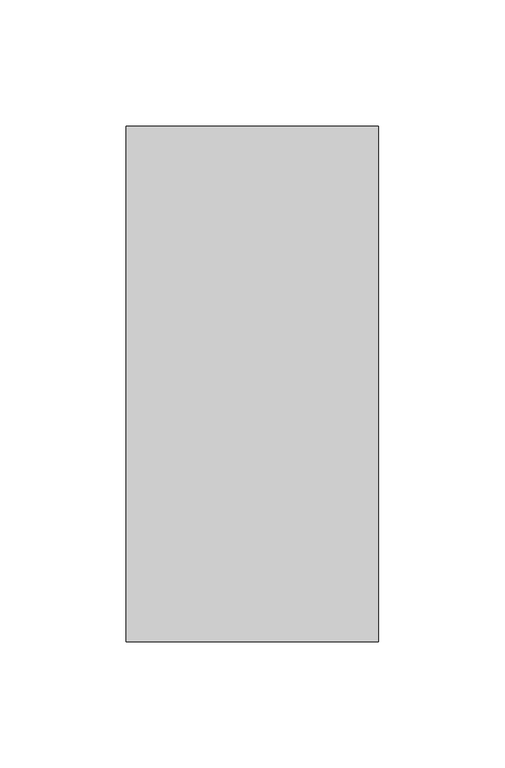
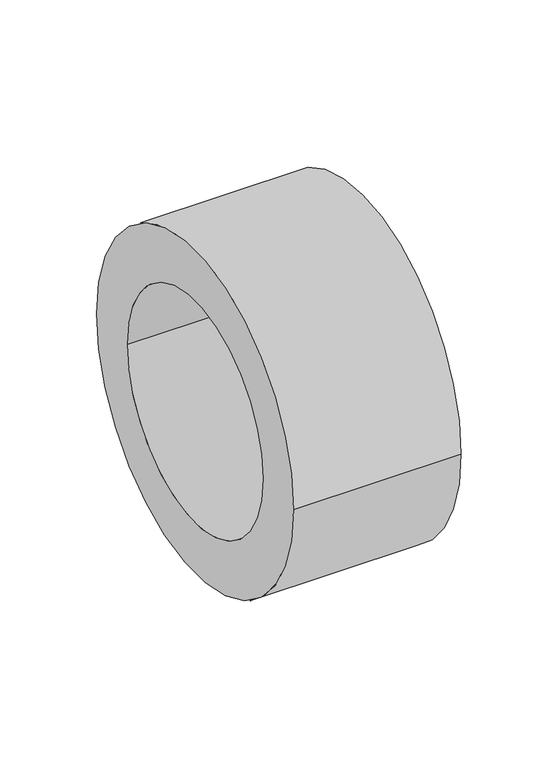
"""IFC4 building model written with IfcOpenShell, lengths in millimetres: pipe fitting geometry, СТ_Подвесы_ДляТруб_IsotermUltima_D10-219_СимфонияТепла : Isoterm UL 32-140."""

from ifc_helpers import new_model, si_unit, point, frame, origin, origin_2d, place, context, project, spatial, circle_curve, trimmed, segment, composite_curve, outline, extrude, source, transform, mapped, element, save


def pipe_fitting_62d414c1(model_context):
    return source(origin(), model_context, "Body", "SweptSolid", [
        extrude(outline(composite_curve([segment(trimmed(circle_curve(origin_2d(), 102.0), [point((-102.0, 0.0))], [point((102.0, 0.0))], False, "CARTESIAN"), True, "CONTINUOUS"), segment(trimmed(circle_curve(origin_2d(), 102.0), [point((102.0, 0.0))], [point((-102.0, 0.0))], False, "CARTESIAN"), True, "CONTINUOUS")], self_intersect=False), holes=[composite_curve([segment(trimmed(circle_curve(origin_2d(), 70.0), [point((-70.0, 0.0))], [point((70.0, 0.0))], True, "CARTESIAN"), True, "CONTINUOUS"), segment(trimmed(circle_curve(origin_2d(), 70.0), [point((70.0, 0.0))], [point((-70.0, 0.0))], True, "CARTESIAN"), True, "CONTINUOUS")], self_intersect=False)]), frame((-50.0, 0.0, 0.0), z_axis=(1.0, 0.0, 0.0), x_axis=(0.0, 1.0, 0.0)), (0.0, 0.0, 1.0), 100.0),
    ])


if __name__ == "__main__":
    model = new_model("IFC4")
    model_context = context("Model", 3, world=origin())
    ifc_project = project(units=[si_unit("LENGTHUNIT", "METRE", prefix="MILLI")], contexts=[model_context])
    site = spatial("IfcSite", under=ifc_project)
    building = spatial("IfcBuilding", under=site)
    placement = place(None, origin())
    pipe_fitting_shape = pipe_fitting_62d414c1(model_context)
    element("IfcPipeFitting", 1, ObjectType="СТ_Подвесы_ДляТруб_IsotermUltima_D10-219_СимфонияТепла : Isoterm UL 32-140", at=placement, inside=building, context=model_context, shape_type="MappedRepresentation", body=[
        mapped(pipe_fitting_shape, transform((0.0, 0.0, 0.0), x_axis=(1.0, 0.0, 0.0), y_axis=(0.0, 1.0, 0.0), z_axis=(0.0, 0.0, 1.0))),
    ])
    save(model, "model.ifc")
